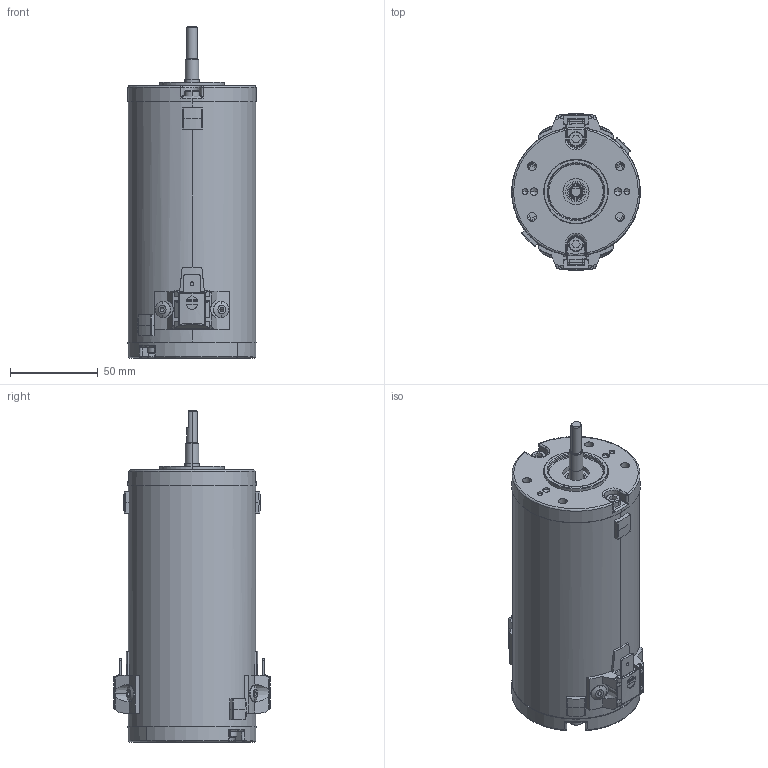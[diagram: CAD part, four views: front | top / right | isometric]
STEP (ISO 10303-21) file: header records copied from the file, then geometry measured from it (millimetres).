
FILE_DESCRIPTION (( 'STEP AP214' ), '1' );
FILE_NAME ('EPM50-63.STEP', '2021-07-05T14:03:30', ( '' ), ( '' ), 'SwSTEP 2.0', 'SolidWorks 2020', '' );
FILE_SCHEMA (( 'AUTOMOTIVE_DESIGN' ));
Length unit declared in the file: millimetre
Products named in the file (1): EPM50-63
Bounding box: 73.32 x 89.43 x 189.34 mm (x, y, z)
Surface area: 112160.7 mm2 (no closed solid volume)
Topology: 0 solids, 24 shells, 1346 faces, 3363 edges, 2049 vertices
Faces by surface type: plane 520, cone 242, cylinder 224, bspline 221, torus 127, sphere 12
Entity records: 65711 total; most frequent: CARTESIAN_POINT 20519, ORIENTED_EDGE 6636, DIRECTION 5881, EDGE_CURVE 3319, AXIS2_PLACEMENT_3D 2227, VERTEX_POINT 2049, EDGE_LOOP 1475, LINE 1427
